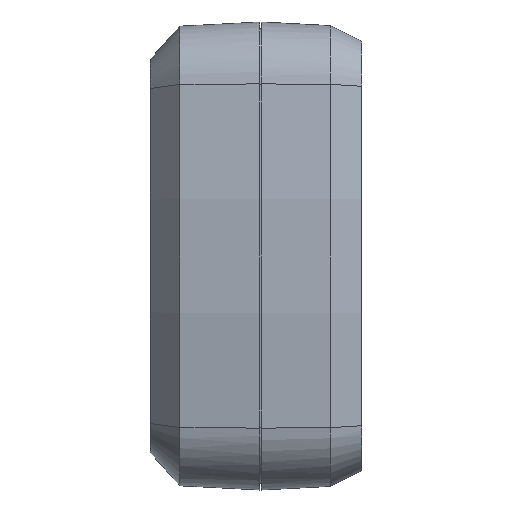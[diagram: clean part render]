
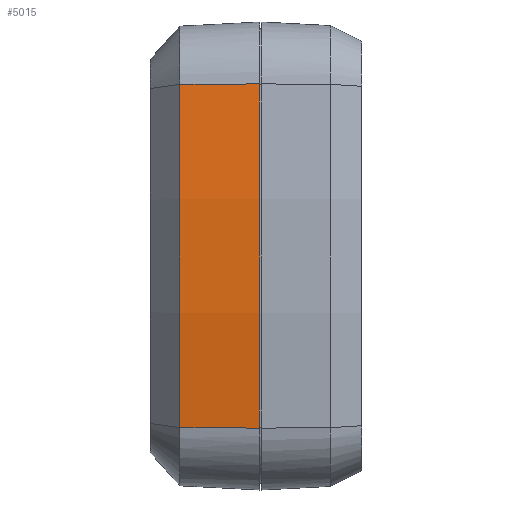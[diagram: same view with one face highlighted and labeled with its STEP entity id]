
A CAD part, left-side view. The second image highlights one B-rep face of the part: STEP entity #5015.
In plain terms, the highlighted conical face has half-angle 3 degrees and reference radius 246.01 mm.
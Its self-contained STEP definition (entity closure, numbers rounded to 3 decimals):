
#101 = VERTEX_POINT ( 'NONE', #18033 ) ;
#1119 = EDGE_CURVE ( 'NONE', #101, #7399, #8377, .T. ) ;
#1834 = CARTESIAN_POINT ( 'NONE',  ( -56.461, 14.107, -10.132 ) ) ;
#2071 = DIRECTION ( 'NONE',  ( 0., 0., -1. ) ) ;
#2309 = EDGE_CURVE ( 'NONE', #7399, #18191, #9536, .T. ) ;
#3272 = VECTOR ( 'NONE', #15100, 1000. ) ;
#3499 = AXIS2_PLACEMENT_3D ( 'NONE', #25844, #25924, #2071 ) ;
#4992 = CARTESIAN_POINT ( 'NONE',  ( -55.313, 0., -30.41 ) ) ;
#5015 = ADVANCED_FACE ( 'NONE', ( #9430 ), #17269, .T. ) ;
#5072 = CARTESIAN_POINT ( 'NONE',  ( -55.313, 0., -30.41 ) ) ;
#6140 = ORIENTED_EDGE ( 'NONE', *, *, #1119, .T. ) ;
#6815 = CARTESIAN_POINT ( 'NONE',  ( -56.569, 0., 20.325 ) ) ;
#7399 = VERTEX_POINT ( 'NONE', #19258 ) ;
#7826 = CARTESIAN_POINT ( 'NONE',  ( -56.461, 14.107, 10.132 ) ) ;
#8377 = B_SPLINE_CURVE_WITH_KNOTS ( 'NONE', 3,
 ( #24446, #19975, #7826, #1834, #19805, #21905 ),
 .UNSPECIFIED., .F., .F.,
 ( 4, 2, 4 ),
 ( 0., 0.5, 1. ),
 .UNSPECIFIED. ) ;
#8732 = CARTESIAN_POINT ( 'NONE',  ( -55.313, 0., 30.41 ) ) ;
#9374 = EDGE_CURVE ( 'NONE', #18191, #21348, #12907, .T. ) ;
#9430 = FACE_OUTER_BOUND ( 'NONE', #19037, .T. ) ;
#9536 = LINE ( 'NONE', #5072, #3272 ) ;
#11394 = CARTESIAN_POINT ( 'NONE',  ( -55.313, 0., 30.41 ) ) ;
#12744 = CARTESIAN_POINT ( 'NONE',  ( -57.2, 0., 10.163 ) ) ;
#12907 = B_SPLINE_CURVE_WITH_KNOTS ( 'NONE', 3,
 ( #4992, #18959, #24908, #12744, #6815, #8732 ),
 .UNSPECIFIED., .F., .F.,
 ( 4, 2, 4 ),
 ( 0., 0.5, 1. ),
 .UNSPECIFIED. ) ;
#13039 = CARTESIAN_POINT ( 'NONE',  ( -55.313, 0., 30.41 ) ) ;
#15100 = DIRECTION ( 'NONE',  ( -0.052, -0.999, -0.006 ) ) ;
#17269 = CONICAL_SURFACE ( 'NONE', #3499, 246.01, 0.052 ) ;
#18033 = CARTESIAN_POINT ( 'NONE',  ( -54.58, 14.107, 30.319 ) ) ;
#18191 = VERTEX_POINT ( 'NONE', #19856 ) ;
#18606 = EDGE_CURVE ( 'NONE', #21348, #101, #18701, .T. ) ;
#18701 = LINE ( 'NONE', #11394, #25918 ) ;
#18959 = CARTESIAN_POINT ( 'NONE',  ( -56.569, 0., -20.325 ) ) ;
#19037 = EDGE_LOOP ( 'NONE', ( #25422, #19143, #21948, #6140 ) ) ;
#19143 = ORIENTED_EDGE ( 'NONE', *, *, #9374, .T. ) ;
#19258 = CARTESIAN_POINT ( 'NONE',  ( -54.58, 14.107, -30.319 ) ) ;
#19805 = CARTESIAN_POINT ( 'NONE',  ( -55.832, 14.107, -20.264 ) ) ;
#19856 = CARTESIAN_POINT ( 'NONE',  ( -55.313, 0., -30.41 ) ) ;
#19975 = CARTESIAN_POINT ( 'NONE',  ( -55.832, 14.107, 20.264 ) ) ;
#21348 = VERTEX_POINT ( 'NONE', #13039 ) ;
#21905 = CARTESIAN_POINT ( 'NONE',  ( -54.58, 14.107, -30.319 ) ) ;
#21948 = ORIENTED_EDGE ( 'NONE', *, *, #18606, .T. ) ;
#24446 = CARTESIAN_POINT ( 'NONE',  ( -54.58, 14.107, 30.319 ) ) ;
#24908 = CARTESIAN_POINT ( 'NONE',  ( -57.2, 0., -10.163 ) ) ;
#25324 = DIRECTION ( 'NONE',  ( 0.052, 0.999, -0.006 ) ) ;
#25422 = ORIENTED_EDGE ( 'NONE', *, *, #2309, .T. ) ;
#25844 = CARTESIAN_POINT ( 'NONE',  ( 188.81, 0., 0. ) ) ;
#25918 = VECTOR ( 'NONE', #25324, 1000. ) ;
#25924 = DIRECTION ( 'NONE',  ( 0., -1., 0. ) ) ;
